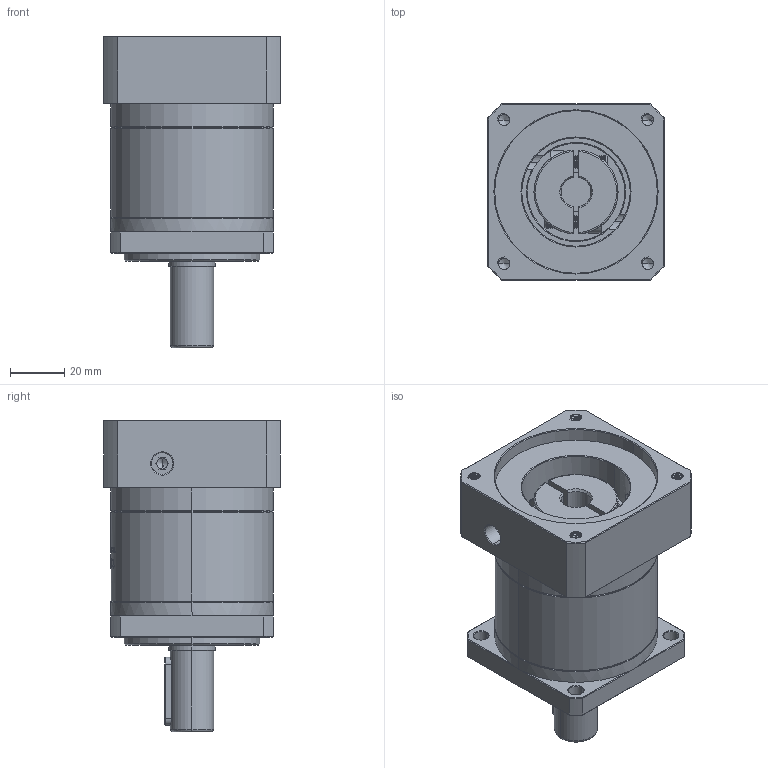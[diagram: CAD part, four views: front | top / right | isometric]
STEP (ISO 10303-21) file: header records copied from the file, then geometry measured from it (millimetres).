
FILE_DESCRIPTION (( 'STEP AP214' ), '1' );
FILE_NAME ('ZF60-D16-L1-11-60-75-M5.STEP', '2022-04-17T11:41:23', ( '' ), ( 'Microsoft' ), 'SwSTEP 2.0', 'SolidWorks 2016', '' );
FILE_SCHEMA (( 'AUTOMOTIVE_DESIGN' ));
Length unit declared in the file: millimetre
Products named in the file (1): ZF60-D16-L1-11-60-75-M5
Bounding box: 65 x 65 x 115 mm (x, y, z)
Volume: 235686.3 mm3; surface area: 46796.9 mm2
Topology: 6 solids, 6 shells, 1661 faces, 4485 edges, 2901 vertices
Faces by surface type: plane 749, cylinder 359, bspline 299, cone 236, torus 18
Entity records: 94515 total; most frequent: CARTESIAN_POINT 38309, ORIENTED_EDGE 8942, DIRECTION 6571, EDGE_CURVE 4471, VERTEX_POINT 2901, VECTOR 2285, LINE 2285, AXIS2_PLACEMENT_3D 2143
